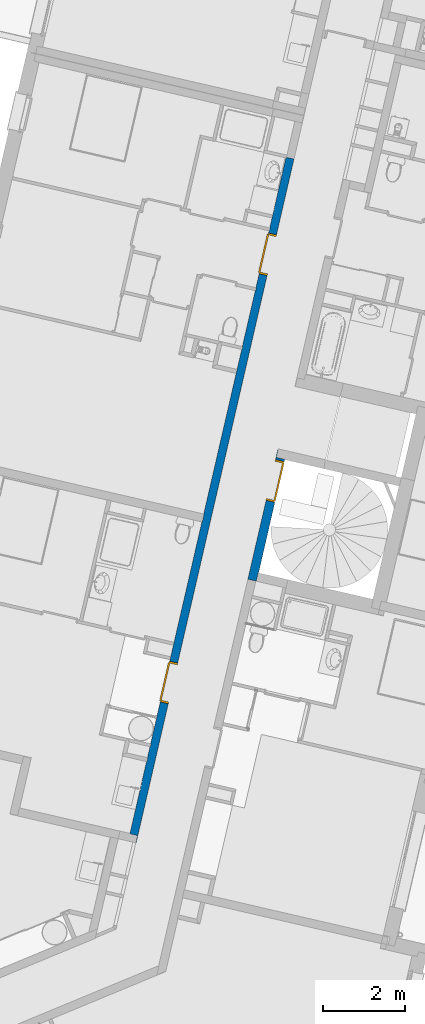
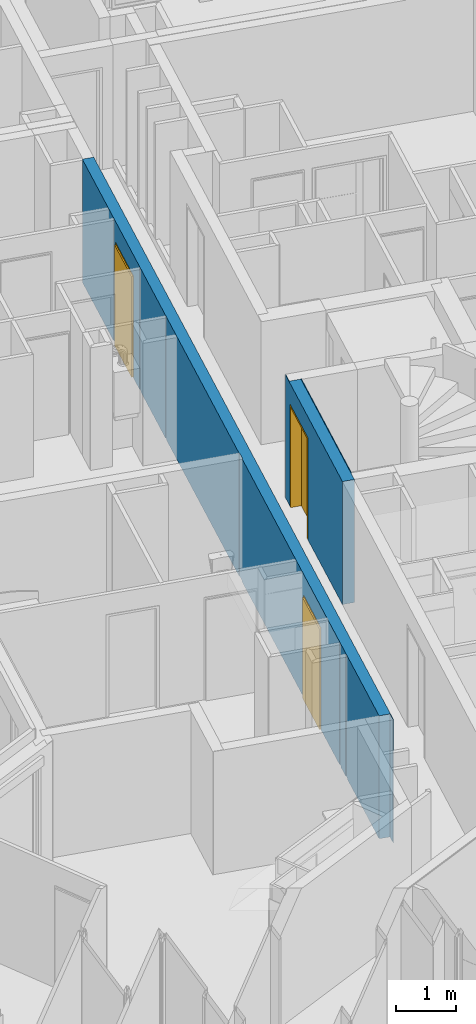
# One storey, part 24 of 90: 3 doors, 2 walls, 3 openings.
"""IFC2X3 building model written with IfcOpenShell, lengths in metres."""

from ifc_helpers import new_model, entity, si_unit, converted_unit, derived_unit, money_unit, direction, frame, origin_with_axes, place, context, subcontext, project, spatial, faceted_brep, source, transform, mapped, material, material_list, type_object, element, fill, save


model = new_model("IFC2X3")

# Units and contexts
model_context = context("Model", 3, precision=1e-05, world=origin_with_axes(), true_north=direction((0.0, 1.0)))
body_context = subcontext(model_context, "Body", "Model", "MODEL_VIEW")
ifc_project = project(units=[si_unit("LENGTHUNIT", "METRE"), si_unit("AREAUNIT", "SQUARE_METRE"), si_unit("VOLUMEUNIT", "CUBIC_METRE"), converted_unit("PLANEANGLEUNIT", "DEGREE", entity("IfcPlaneAngleMeasure", 0.0174532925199), si_unit("PLANEANGLEUNIT", "RADIAN"), dimensions=[0, 0, 0, 0, 0, 0, 0]), si_unit("SOLIDANGLEUNIT", "STERADIAN"), money_unit("EUR"), converted_unit("TIMEUNIT", "Year", entity("IfcTimeMeasure", 31556926.0), si_unit("TIMEUNIT", "SECOND"), dimensions=[0, 0, 1, 0, 0, 0, 0]), si_unit("MASSUNIT", "GRAM", prefix="KILO"), si_unit("THERMODYNAMICTEMPERATUREUNIT", "DEGREE_CELSIUS"), si_unit("LUMINOUSINTENSITYUNIT", "LUMEN"), si_unit("ENERGYUNIT", "JOULE", prefix="MEGA"), derived_unit("THERMALCONDUCTANCEUNIT", [(si_unit("POWERUNIT", "WATT"), 1), (si_unit("LENGTHUNIT", "METRE"), -1), (si_unit("THERMODYNAMICTEMPERATUREUNIT", "KELVIN"), -1)]), derived_unit("SPECIFICHEATCAPACITYUNIT", [(si_unit("ENERGYUNIT", "JOULE"), 1), (si_unit("MASSUNIT", "GRAM", prefix="KILO"), -1), (si_unit("THERMODYNAMICTEMPERATUREUNIT", "KELVIN"), -1)]), derived_unit("MASSDENSITYUNIT", [(si_unit("MASSUNIT", "GRAM", prefix="KILO"), 1), (si_unit("VOLUMEUNIT", "CUBIC_METRE"), -1)])], contexts=[model_context])

# Site, building, storey
site_placement = place(None, origin_with_axes())
site = spatial("IfcSite", under=ifc_project, at=site_placement, Name="Site", CompositionType="ELEMENT")
building_placement = place(site_placement, origin_with_axes())
building = spatial("IfcBuilding", under=site, at=building_placement, Name="Bâtiment", CompositionType="ELEMENT")
storey_placement = place(building_placement, frame((0.0, 0.0, 2.72), z_axis=(0.0, 0.0, 1.0), x_axis=(1.0, 0.0, 0.0)))
storey = spatial("IfcBuildingStorey", under=building, at=storey_placement, Name="R+1", CompositionType="ELEMENT", Elevation=2.72)

# Wall, openings, doors
ifc_material_1 = material(Name="Finition int - Enduit plâtre")
ifc_material_2 = material(Name="Béton")
ifc_material_list = material_list([ifc_material_1, ifc_material_2, ifc_material_1])
wall_type_1 = type_object("IfcWallType", Name="2 - Murs Béton 18 + Enduit 2 Faces 200", PredefinedType="USERDEFINED")
wall_1_placement = place(storey_placement, frame((-10.404385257, 1.37535274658, 0.0), z_axis=(0.0, 0.0, 1.0), x_axis=(-0.22487619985, -0.974387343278, 0.0)))
wall_1 = element("IfcWall", 1, at=wall_1_placement, inside=storey, type_object=wall_type_1, material=ifc_material_list, Name="M_Ext-009", ObjectType="SOLIDWALL", context=body_context, shape_type="Brep", body=[
    faceted_brep([(2.92382101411, 0.01, 0.0), (2.92382101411, 0.01, 2.085), (1.90382101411, 0.01, 2.085), (1.90382101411, 0.01, 0.0), (0.0, 0.01, 0.0), (0.0, 0.01, 2.51), (17.1471355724, 0.01, 2.51), (17.1471355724, 0.01, 0.15), (17.1471355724, 0.01, 0.0), (13.6591355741, 0.01, 0.0), (13.6591355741, 0.01, 2.085), (12.6391355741, 0.01, 2.085), (12.6391355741, 0.01, 0.0), (2.92382101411, 0.0, 0.0), (2.92382101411, 0.0, 2.085), (1.90382101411, 0.0, 2.085), (1.90382101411, 0.0, 0.0), (0.0, 0.0, 0.0), (0.0, 0.0, 2.51), (17.1471355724, 0.0, 2.51), (17.1471355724, 0.0, 0.15), (17.1471355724, 0.0, 0.0), (13.6591355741, 0.0, 0.0), (13.6591355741, 0.0, 2.085), (12.6391355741, 0.0, 2.085), (12.6391355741, 0.0, 0.0)], [[[0, 1, 2, 3, 4, 5, 6, 7, 8, 9, 10, 11, 12]], [[1, 0, 13, 14]], [[2, 1, 14, 15]], [[3, 2, 15, 16]], [[3, 16, 17, 4]], [[4, 17, 18, 5]], [[18, 19, 6, 5]], [[20, 7, 6, 19]], [[7, 20, 21, 8]], [[9, 8, 21, 22]], [[9, 22, 23, 10]], [[10, 23, 24, 11]], [[11, 24, 25, 12]], [[13, 0, 12, 25]], [[14, 13, 25, 24, 23, 22, 21, 20, 19, 18, 17, 16, 15]]]),
    faceted_brep([(2.92382101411, 0.0, 0.0), (2.92382101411, 0.0, 2.085), (1.90382101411, 0.0, 2.085), (1.90382101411, 0.0, 0.0), (0.0, 0.0, 0.0), (0.0, 0.0, 2.51), (16.9671355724, 0.0, 2.51), (16.9671355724, 0.0, 0.0), (13.6591355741, 0.0, 0.0), (13.6591355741, 0.0, 2.085), (12.6391355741, 0.0, 2.085), (12.6391355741, 0.0, 0.0), (2.92382101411, -0.18, 0.0), (2.92382101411, -0.18, 2.085), (1.90382101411, -0.18, 2.085), (1.90382101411, -0.18, 0.0), (0.0, -0.18, 0.0), (0.0, -0.18, 2.51), (16.9671355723, -0.18, 2.51), (16.9671355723, -0.18, 0.0), (13.6591355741, -0.18, 0.0), (13.6591355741, -0.18, 2.085), (12.6391355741, -0.18, 2.085), (12.6391355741, -0.18, 0.0)], [[[0, 1, 2, 3, 4, 5, 6, 7, 8, 9, 10, 11]], [[1, 0, 12, 13]], [[2, 1, 13, 14]], [[3, 2, 14, 15]], [[3, 15, 16, 4]], [[4, 16, 17, 5]], [[17, 18, 6, 5]], [[19, 7, 6, 18]], [[8, 7, 19, 20]], [[8, 20, 21, 9]], [[9, 21, 22, 10]], [[10, 22, 23, 11]], [[12, 0, 11, 23]], [[13, 12, 23, 22, 21, 20, 19, 18, 17, 16, 15, 14]]]),
    faceted_brep([(13.6591355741, -0.18, 0.0), (13.6591355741, -0.18, 2.085), (12.6391355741, -0.18, 2.085), (12.6391355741, -0.18, 0.0), (9.13713557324, -0.18, 0.0), (9.13713557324, -0.18, 2.51), (16.9571355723, -0.18, 2.51), (16.9571355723, -0.18, 0.0), (15.1571355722, -0.18, 0.0), (15.1571355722, -0.18, 2.5), (15.0571355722, -0.18, 2.5), (15.0571355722, -0.18, 0.0), (14.7831355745, -0.18, 0.0), (14.7831355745, -0.18, 2.5), (14.7091355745, -0.18, 2.5), (14.7091355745, -0.18, 0.0), (13.6591355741, -0.19, 0.0), (13.6591355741, -0.19, 2.085), (12.6391355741, -0.19, 2.085), (12.6391355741, -0.19, 0.0), (9.13713557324, -0.19, 0.0), (9.13713557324, -0.19, 2.51), (16.9571355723, -0.19, 2.51), (16.9571355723, -0.19, 0.0), (15.1571355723, -0.19, 0.0), (15.1571355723, -0.19, 2.5), (15.0571355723, -0.19, 2.5), (15.0571355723, -0.19, 0.0), (14.7831355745, -0.19, 0.0), (14.7831355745, -0.19, 2.5), (14.7091355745, -0.19, 2.5), (14.7091355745, -0.19, 0.0)], [[[0, 1, 2, 3, 4, 5, 6, 7, 8, 9, 10, 11, 12, 13, 14, 15]], [[1, 0, 16, 17]], [[2, 1, 17, 18]], [[3, 2, 18, 19]], [[3, 19, 20, 4]], [[5, 4, 20, 21]], [[5, 21, 22, 6]], [[22, 23, 7, 6]], [[24, 8, 7, 23]], [[9, 8, 24, 25]], [[9, 25, 26, 10]], [[11, 10, 26, 27]], [[28, 12, 11, 27]], [[13, 12, 28, 29]], [[13, 29, 30, 14]], [[15, 14, 30, 31]], [[16, 0, 15, 31]], [[17, 16, 31, 30, 29, 28, 27, 26, 25, 24, 23, 22, 21, 20, 19, 18]]]),
    faceted_brep([(2.92382101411, -0.18, 0.0), (2.92382101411, -0.18, 2.085), (1.90382101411, -0.18, 2.085), (1.90382101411, -0.18, 0.0), (1.84846721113, -0.18, 0.0), (1.84846721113, -0.18, 2.5), (1.77446721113, -0.18, 2.5), (1.77446721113, -0.18, 0.0), (0.0, -0.18, 0.0), (0.0, -0.18, 2.51), (8.95713557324, -0.18, 2.51), (8.95713557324, -0.18, 0.0), (4.82184246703, -0.18, 0.0), (4.82184246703, -0.18, 2.5), (4.74784246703, -0.18, 2.5), (4.74784246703, -0.18, 0.0), (3.34784246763, -0.18, 0.0), (3.34784246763, -0.18, 2.5), (3.27384246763, -0.18, 2.5), (3.27384246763, -0.18, 0.0), (2.92382101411, -0.19, 0.0), (2.92382101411, -0.19, 2.085), (1.90382101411, -0.19, 2.085), (1.90382101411, -0.19, 0.0), (1.84846721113, -0.19, 0.0), (1.84846721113, -0.19, 2.5), (1.77446721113, -0.19, 2.5), (1.77446721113, -0.19, 0.0), (0.0, -0.19, 0.0), (0.0, -0.19, 2.51), (8.95713557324, -0.19, 2.51), (8.95713557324, -0.19, 0.0), (4.82184246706, -0.19, 0.0), (4.82184246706, -0.19, 2.5), (4.74784246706, -0.19, 2.5), (4.74784246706, -0.19, 0.0), (3.34784246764, -0.19, 0.0), (3.34784246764, -0.19, 2.5), (3.27384246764, -0.19, 2.5), (3.27384246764, -0.19, 0.0)], [[[0, 1, 2, 3, 4, 5, 6, 7, 8, 9, 10, 11, 12, 13, 14, 15, 16, 17, 18, 19]], [[1, 0, 20, 21]], [[2, 1, 21, 22]], [[3, 2, 22, 23]], [[3, 23, 24, 4]], [[5, 4, 24, 25]], [[5, 25, 26, 6]], [[7, 6, 26, 27]], [[7, 27, 28, 8]], [[9, 8, 28, 29]], [[9, 29, 30, 10]], [[30, 31, 11, 10]], [[32, 12, 11, 31]], [[13, 12, 32, 33]], [[13, 33, 34, 14]], [[15, 14, 34, 35]], [[15, 35, 36, 16]], [[17, 16, 36, 37]], [[17, 37, 38, 18]], [[19, 18, 38, 39]], [[20, 0, 19, 39]], [[21, 20, 39, 38, 37, 36, 35, 34, 33, 32, 31, 30, 29, 28, 27, 26, 25, 24, 23, 22]]]),
])
opening_1_placement = place(wall_1_placement, frame((13.1491355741, 0.0, 0.0), z_axis=(0.0, 0.0, 1.0), x_axis=(1.0, 0.0, 0.0)))
opening_1 = element("IfcOpeningElement", 2, at=opening_1_placement, cuts=wall_1, Name="Porte 93x204 bois blindée", context=body_context, shape_type="Brep", body=[
    faceted_brep([(-0.51, 0.2, 0.0), (0.51, 0.2, 0.0), (0.51, -0.2, 0.0), (-0.51, -0.2, 0.0), (-0.51, 0.2, 2.085), (0.51, 0.2, 2.085), (0.51, -0.2, 2.085), (-0.51, -0.2, 2.085)], [[[0, 1, 2, 3]], [[0, 4, 5, 1]], [[1, 5, 6, 2]], [[3, 2, 6, 7]], [[4, 0, 3, 7]], [[5, 4, 7, 6]]]),
])
opening_2_placement = place(wall_1_placement, frame((2.41382101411, 0.0, 0.0), z_axis=(0.0, 0.0, 1.0), x_axis=(1.0, 0.0, 0.0)))
opening_2 = element("IfcOpeningElement", 3, at=opening_2_placement, cuts=wall_1, Name="Porte 93x204 bois blindée", context=body_context, shape_type="Brep", body=[
    faceted_brep([(-0.51, 0.2, 0.0), (0.51, 0.2, 0.0), (0.51, -0.2, 0.0), (-0.51, -0.2, 0.0), (-0.51, 0.2, 2.085), (0.51, 0.2, 2.085), (0.51, -0.2, 2.085), (-0.51, -0.2, 2.085)], [[[0, 1, 2, 3]], [[0, 4, 5, 1]], [[1, 5, 6, 2]], [[3, 2, 6, 7]], [[4, 0, 3, 7]], [[5, 4, 7, 6]]]),
])
door_style_1 = type_object("IfcDoorStyle", Name="Porte int générique 2019", ConstructionType="NOTDEFINED", OperationType="SINGLE_SWING_RIGHT", ParameterTakesPrecedence=False, Sizeable=False)
shared_shape_1 = source(origin_with_axes(), body_context, "Body", "Brep", [
    faceted_brep([(0.51, 0.0, 0.0), (0.48, 0.0, 0.0), (0.48, 0.0, 2.055), (-0.48, 0.0, 2.055), (-0.48, 0.0, 0.0), (-0.51, 0.0, 0.0), (-0.51, 0.0, 2.085), (0.51, 0.0, 2.085), (0.51, -0.2, 0.0), (0.465, -0.2, 0.0), (0.465, -0.015, 0.0), (0.48, -0.015, 0.0), (0.48, -0.015, 2.055), (-0.48, -0.015, 2.055), (-0.48, -0.015, 0.0), (-0.465, -0.015, 0.0), (-0.465, -0.2, 0.0), (-0.51, -0.2, 0.0), (-0.51, -0.2, 2.085), (0.51, -0.2, 2.085), (-0.465, -0.2, 2.04), (0.465, -0.2, 2.04), (0.465, -0.015, 2.04), (-0.465, -0.015, 2.04)], [[[0, 1, 2, 3, 4, 5, 6, 7]], [[0, 8, 9, 10, 11, 1]], [[1, 11, 12, 2]], [[2, 12, 13, 3]], [[3, 13, 14, 4]], [[5, 4, 14, 15, 16, 17]], [[18, 6, 5, 17]], [[19, 7, 6, 18]], [[8, 0, 7, 19]], [[9, 8, 19, 18, 17, 16, 20, 21]], [[10, 9, 21, 22]], [[11, 10, 22, 23, 15, 14, 13, 12]], [[23, 20, 16, 15]], [[22, 21, 20, 23]]]),
    faceted_brep([(0.48, 0.025, 0.0), (0.48, -0.015, 0.0), (-0.48, -0.015, 0.0), (-0.48, 0.025, 0.0), (0.48, 0.025, 2.055), (0.48, -0.015, 2.055), (-0.48, -0.015, 2.055), (-0.48, 0.025, 2.055)], [[[0, 1, 2, 3]], [[4, 5, 1, 0]], [[1, 5, 6, 2]], [[3, 2, 6, 7]], [[0, 3, 7, 4]], [[7, 6, 5, 4]]]),
])
door_1_placement = place(opening_1_placement, frame((0.465, 0.0, 0.0), z_axis=(0.0, 0.0, 1.0), x_axis=(-1.0, 0.0, 0.0)))
door_1 = element("IfcDoor", 4, at=door_1_placement, inside=storey, type_object=door_style_1, Name="Porte 93x204 bois blindée", ObjectType="DOOR", OverallHeight=2.04, OverallWidth=0.93, context=body_context, shape_type="MappedRepresentation", body=[
    mapped(shared_shape_1, transform((0.465, 0.19, 0.0))),
])
fill(opening_1, door_1)
door_2_placement = place(opening_2_placement, frame((0.465, 0.0, 0.0), z_axis=(0.0, 0.0, 1.0), x_axis=(-1.0, 0.0, 0.0)))
door_2 = element("IfcDoor", 5, at=door_2_placement, inside=storey, type_object=door_style_1, Name="Porte 93x204 bois blindée", ObjectType="DOOR", OverallHeight=2.04, OverallWidth=0.93, context=body_context, shape_type="MappedRepresentation", body=[
    mapped(shared_shape_1, transform((0.465, 0.19, 0.0))),
])
fill(opening_2, door_2)

# Wall, opening, door
wall_type_2 = type_object("IfcWallType", Name="2 - Murs Béton 20 + Enduit 2 Faces  220", PredefinedType="USERDEFINED")
wall_2_placement = place(storey_placement, frame((-10.7747392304, -5.7212996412, 0.0), z_axis=(0.0, 0.0, 1.0), x_axis=(-0.224876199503, -0.974387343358, 0.0)))
wall_2 = element("IfcWall", 6, at=wall_2_placement, inside=storey, type_object=wall_type_2, material=ifc_material_list, Name="M_Ext-009", ObjectType="SOLIDWALL", context=body_context, shape_type="Brep", body=[
    faceted_brep([(1.28000000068, 0.205, 0.0), (1.28000000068, 0.205, 2.085), (0.260000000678, 0.205, 2.085), (0.260000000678, 0.205, 0.0), (0.210000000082, 0.205, 0.0), (0.210000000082, 0.205, 2.51), (0.199999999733, 0.205, 2.51), (0.200000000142, 0.205, 2.52), (3.05999999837, 0.205, 2.52), (3.05999999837, 0.205, 0.0), (1.28000000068, 0.195, 0.0), (1.28000000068, 0.19500000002, 2.085), (0.260000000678, 0.19500000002, 2.085), (0.260000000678, 0.195, 0.0), (0.210000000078, 0.195, 0.0), (0.210000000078, 0.195, 2.51), (0.199999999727, 0.19500000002, 2.51), (0.199999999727, 0.19500000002, 2.52), (3.05999999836, 0.195, 2.52), (3.05999999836, 0.195, 0.0)], [[[0, 1, 2, 3, 4, 5, 6, 7, 8, 9]], [[1, 0, 10, 11]], [[2, 1, 11, 12]], [[3, 2, 12, 13]], [[3, 13, 14, 4]], [[5, 4, 14, 15]], [[6, 5, 15, 16]], [[7, 6, 16, 17]], [[17, 18, 8, 7]], [[9, 8, 18, 19]], [[10, 0, 9, 19]], [[11, 10, 19, 18, 17, 16, 15, 14, 13, 12]]]),
    faceted_brep([(1.28000000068, 0.195, 0.0), (1.28000000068, 0.194999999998, 2.085), (0.260000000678, 0.194999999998, 2.085), (0.260000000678, 0.195, 0.0), (0.200000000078, 0.195, 0.0), (0.199999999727, 0.19500000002, 2.51), (3.06000000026, 0.194999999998, 2.51), (3.25999999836, 0.195, 2.51), (3.25999999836, 0.195, 0.0), (1.28000000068, -0.005, 0.0), (1.28000000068, -0.005, 2.085), (0.260000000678, -0.005, 2.085), (0.260000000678, -0.005, 0.0), (0.199999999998, -0.005, 0.0), (0.199999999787, -0.005, 2.51), (3.25999999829, -0.005, 2.51), (3.25999999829, -0.005, 0.0)], [[[0, 1, 2, 3, 4, 5, 6, 7, 8]], [[1, 0, 9, 10]], [[2, 1, 10, 11]], [[3, 2, 11, 12]], [[3, 12, 13, 4]], [[5, 4, 13, 14]], [[14, 15, 7, 6, 5]], [[15, 16, 8, 7]], [[9, 0, 8, 16]], [[10, 9, 16, 15, 14, 13, 12, 11]]]),
    faceted_brep([(1.28000000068, -0.005, 0.0), (1.28000000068, -0.005, 2.085), (0.260000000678, -0.005, 2.085), (0.260000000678, -0.005, 0.0), (0.0, -0.005, 0.0), (0.0, -0.005, 2.51), (3.25999999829, -0.005, 2.51), (3.25999999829, -0.005, 0.0), (1.28000000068, -0.015, 0.0), (1.28000000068, -0.015, 2.085), (0.260000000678, -0.015, 2.085), (0.260000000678, -0.015, 0.0), (0.0, -0.015, 0.0), (0.0, -0.015, 2.51), (3.25999999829, -0.015, 2.51), (3.25999999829, -0.015, 0.0)], [[[0, 1, 2, 3, 4, 5, 6, 7]], [[1, 0, 8, 9]], [[2, 1, 9, 10]], [[3, 2, 10, 11]], [[3, 11, 12, 4]], [[5, 4, 12, 13]], [[13, 14, 6, 5]], [[14, 15, 7, 6]], [[8, 0, 7, 15]], [[9, 8, 15, 14, 13, 12, 11, 10]]]),
])
opening_3_placement = place(wall_2_placement, frame((0.770000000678, 0.0, 0.0), z_axis=(0.0, 0.0, 1.0), x_axis=(1.0, 0.0, 0.0)))
opening_3 = element("IfcOpeningElement", 7, at=opening_3_placement, cuts=wall_2, Name="Porte 93x204 bois CF", context=body_context, shape_type="Brep", body=[
    faceted_brep([(-0.51, 0.22, 0.0), (0.51, 0.22, 0.0), (0.51, -0.22, 0.0), (-0.51, -0.22, 0.0), (-0.51, 0.22, 2.085), (0.51, 0.22, 2.085), (0.51, -0.22, 2.085), (-0.51, -0.22, 2.085)], [[[0, 1, 2, 3]], [[0, 4, 5, 1]], [[1, 5, 6, 2]], [[3, 2, 6, 7]], [[4, 0, 3, 7]], [[5, 4, 7, 6]]]),
])
door_style_2 = type_object("IfcDoorStyle", Name="Porte int générique 2019", ConstructionType="NOTDEFINED", OperationType="SINGLE_SWING_LEFT", ParameterTakesPrecedence=False, Sizeable=False)
shared_shape_2 = source(origin_with_axes(), body_context, "Body", "Brep", [
    faceted_brep([(-0.51, 0.0, 0.0), (-0.51, 0.0, 2.085), (0.51, 0.0, 2.085), (0.51, 0.0, 0.0), (0.48, 0.0, 0.0), (0.48, 0.0, 2.055), (-0.48, 0.0, 2.055), (-0.48, 0.0, 0.0), (-0.51, -0.2, 0.0), (-0.51, -0.2, 2.085), (0.51, -0.2, 2.085), (0.51, -0.2, 0.0), (0.465, -0.2, 0.0), (0.465, -0.015, 0.0), (0.48, -0.015, 0.0), (0.48, -0.015, 2.055), (-0.48, -0.015, 2.055), (-0.48, -0.015, 0.0), (-0.465, -0.015, 0.0), (-0.465, -0.2, 0.0), (-0.465, -0.2, 2.04), (0.465, -0.2, 2.04), (0.465, -0.015, 2.04), (-0.465, -0.015, 2.04)], [[[0, 1, 2, 3, 4, 5, 6, 7]], [[8, 9, 1, 0]], [[9, 10, 2, 1]], [[10, 11, 3, 2]], [[3, 11, 12, 13, 14, 4]], [[5, 4, 14, 15]], [[6, 5, 15, 16]], [[7, 6, 16, 17]], [[0, 7, 17, 18, 19, 8]], [[19, 20, 21, 12, 11, 10, 9, 8]], [[22, 13, 12, 21]], [[17, 16, 15, 14, 13, 22, 23, 18]], [[18, 23, 20, 19]], [[23, 22, 21, 20]]]),
    faceted_brep([(-0.48, 0.025, 0.0), (0.48, 0.025, 0.0), (0.48, -0.015, 0.0), (-0.48, -0.015, 0.0), (-0.48, 0.025, 2.055), (0.48, 0.025, 2.055), (0.48, -0.015, 2.055), (-0.48, -0.015, 2.055)], [[[0, 1, 2, 3]], [[0, 4, 5, 1]], [[1, 5, 6, 2]], [[3, 2, 6, 7]], [[4, 0, 3, 7]], [[5, 4, 7, 6]]]),
])
door_3_placement = place(opening_3_placement, frame((-0.465, 0.0, 0.0), z_axis=(0.0, 0.0, 1.0), x_axis=(1.0, 0.0, 0.0)))
door_3 = element("IfcDoor", 8, at=door_3_placement, inside=storey, type_object=door_style_2, Name="Porte 93x204 bois CF", ObjectType="DOOR", OverallHeight=2.04, OverallWidth=0.93, context=body_context, shape_type="MappedRepresentation", body=[
    mapped(shared_shape_2, transform((0.465, 0.185, 0.0))),
])
fill(opening_3, door_3)

save(model, "model.ifc")
